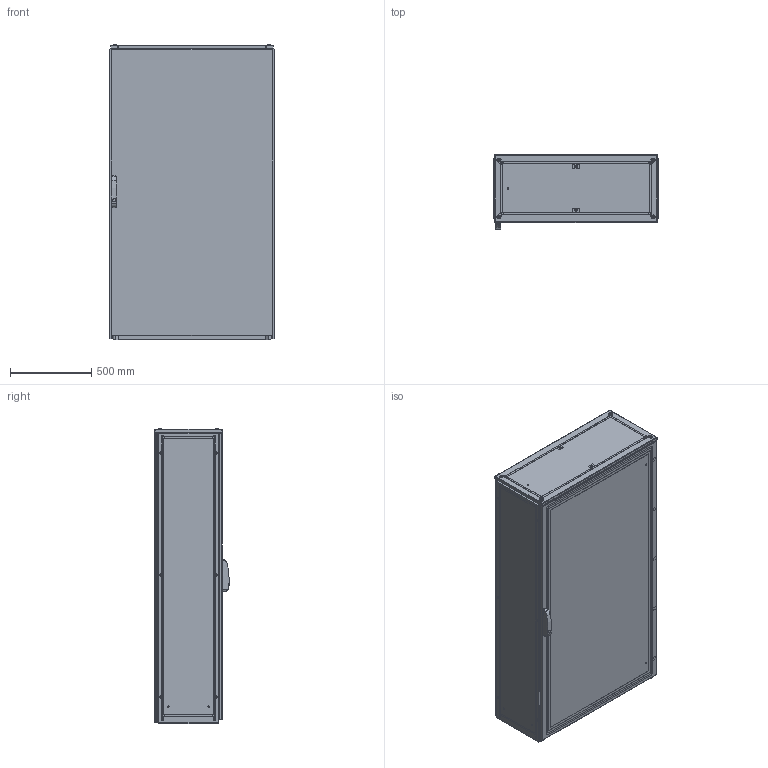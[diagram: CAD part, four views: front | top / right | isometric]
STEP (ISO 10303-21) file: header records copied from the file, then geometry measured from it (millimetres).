
FILE_DESCRIPTION(/* description */ ('STEP AP214'),/* implementation_level */ '2;1');
FILE_NAME(/* name */ 'ENUX101804PR-LOD350',/* time_stamp */ '2025-10-03T14:00:04+02:00',/* author */ ('License CC BY-ND 4.0'),/* organization */ ('CADENAS'),/* preprocessor_version */ 'ST-DEVELOPER v19.3',/* originating_system */ 'PARTsolutions',/* authorisation */ ' ');
FILE_SCHEMA (('AUTOMOTIVE_DESIGN {1 0 10303 214 3 1 1}'));
Length unit declared in the file: millimetre
Products named in the file (11): ENUX101804PR-LOD350; ENUX101804PR-LOD350_CON; ENUX101804PR-LOD350_floor1; ENUX101804PR-LOD350_floor2; Screw M12x30 architecture 350; ENUX101804PR-LOD350_side; ENUX101804PR-LOD350_top; ENUX101804PR-LOD350_back_door_r; ENUX101804PR-LOD350_back_door_l; ENUX101804PR-LOD350_door; ENUX101804PR-LOD350_handle
Assembly tree (18 placements, depth 2):
  ENUX101804PR-LOD350
    ENUX101804PR-LOD350_CON
    ENUX101804PR-LOD350_floor1  x4
    ENUX101804PR-LOD350_floor2  x2
    Screw M12x30 architecture 350  x4
    ENUX101804PR-LOD350_side  x2
    ENUX101804PR-LOD350_top
    ENUX101804PR-LOD350_back_door_r
    ENUX101804PR-LOD350_back_door_l
    ENUX101804PR-LOD350_door
    ENUX101804PR-LOD350_handle
Bounding box: 1012 x 457 x 1814.1 mm (x, y, z)
Volume: 21680261.2 mm3; surface area: 17681545.3 mm2
Topology: 18 solids, 18 shells, 2095 faces, 5836 edges, 3805 vertices
Faces by surface type: plane 1059, cylinder 836, cone 95, torus 88, sphere 17
Full cylindrical faces by diameter (mm): 4.5 x144, 6 x20, 6.8 x8, 7 x4, 9 x11, 12 x16, 13 x4, 14 x2, 17 x2, 18 x1, 21 x4, 28 x2
Entity records: 55025 total; most frequent: DIRECTION 9545, CARTESIAN_POINT 9503, ORIENTED_EDGE 8900, EDGE_CURVE 4450, AXIS2_PLACEMENT_3D 3419, VERTEX_POINT 3120, LINE 2707, VECTOR 2707
